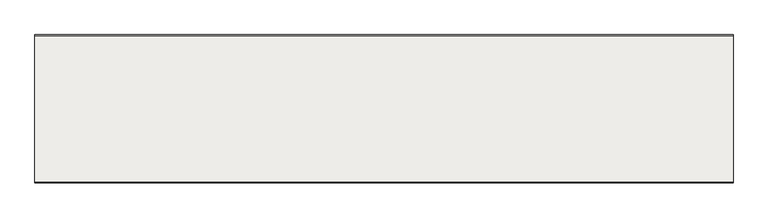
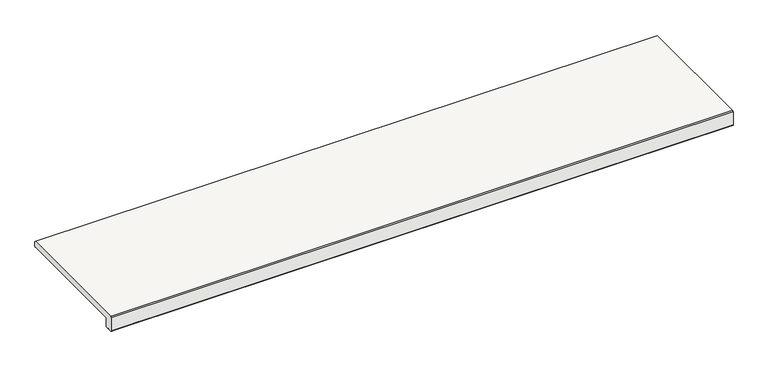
"""IFC4 building model written with IfcOpenShell, lengths in millimetres: slab geometry, ROSA GRES_L98 : Pieza L98_Serena_Ocra_Anti-Slip."""

from ifc_helpers import new_model, si_unit, point, frame, frame_2d, origin, place, context, project, spatial, polyline, circle_curve, trimmed, segment, composite_curve, outline, extrude, source, transform, mapped, element, save


def slab_481ddfbc(model_context):
    return source(origin(), model_context, "Body", "SweptSolid", [
        extrude(outline(composite_curve([segment(polyline([(17.5526771, -23.0), (11.8841218, -23.0)]), True, "CONTINUOUS"), segment(trimmed(circle_curve(frame_2d((10.0167467, -23.0)), 1.8673751), [point((11.8841218, -23.0))], [point((8.1493716, -23.0))], True, "CARTESIAN"), True, "CONTINUOUS"), segment(polyline([(8.1493716, -23.0), (2.5, -23.0)]), True, "CONTINUOUS"), segment(trimmed(circle_curve(frame_2d((2.5, -20.5)), 2.5), [point((2.5, -23.0))], [point((0.0, -20.5))], False, "CARTESIAN"), True, "CONTINUOUS"), segment(polyline([(0.0, -20.5), (0.0, 12.5), (2.5, 15.0), (314.5, 15.0), (317.0, 12.5), (317.0, 2.5)]), True, "CONTINUOUS"), segment(trimmed(circle_curve(frame_2d((314.5, 2.5)), 2.5), [point((317.0, 2.5))], [point((314.5, 0.0))], False, "CARTESIAN"), True, "CONTINUOUS"), segment(polyline([(314.5, 0.0), (22.471267, 0.0)]), True, "CONTINUOUS"), segment(trimmed(circle_curve(frame_2d((22.471267, -2.5191553)), 2.5191553), [point((22.471267, 0.0))], [point((19.9521117, -2.5191553))], True, "CARTESIAN"), True, "CONTINUOUS"), segment(polyline([(19.9521117, -2.5191553), (19.9521117, -20.6005654)]), True, "CONTINUOUS"), segment(trimmed(circle_curve(frame_2d((17.5526771, -20.6005654)), 2.3994346), [point((19.9521117, -20.6005654))], [point((17.5526771, -23.0))], False, "CARTESIAN"), True, "CONTINUOUS")], self_intersect=False)), frame((0.0, 0.0, 0.0), z_axis=(1.0, 0.0, 0.0), x_axis=(0.0, 1.0, 0.0)), (0.0, 0.0, 1.0), 1492.0923209),
    ])


if __name__ == "__main__":
    model = new_model("IFC4")
    model_context = context("Model", 3, world=origin())
    ifc_project = project(units=[si_unit("LENGTHUNIT", "METRE", prefix="MILLI")], contexts=[model_context])
    site = spatial("IfcSite", under=ifc_project)
    building = spatial("IfcBuilding", under=site)
    placement = place(None, origin())
    slab_shape = slab_481ddfbc(model_context)
    element("IfcSlab", 1, ObjectType="ROSA GRES_L98 : Pieza L98_Serena_Ocra_Anti-Slip", at=placement, inside=building, context=model_context, shape_type="MappedRepresentation", body=[
        mapped(slab_shape, transform((0.0, 0.0, 0.0), x_axis=(1.0, 0.0, 0.0), y_axis=(0.0, 1.0, 0.0), z_axis=(0.0, 0.0, 1.0))),
    ])
    save(model, "model.ifc")
